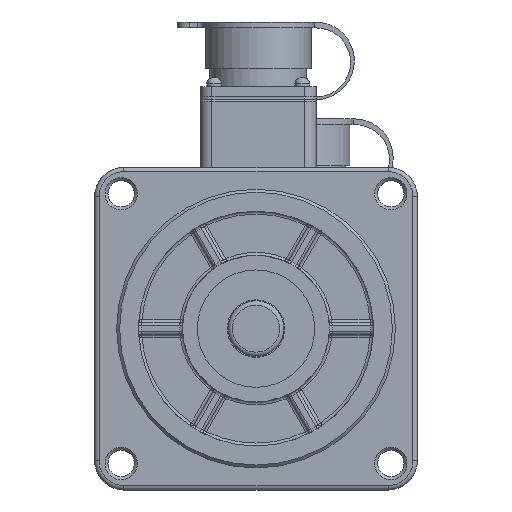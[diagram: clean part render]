
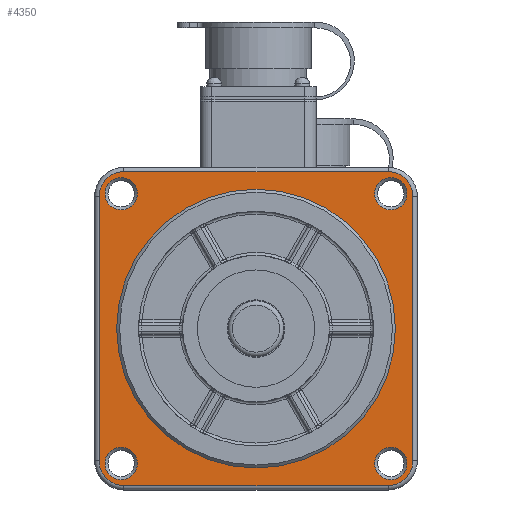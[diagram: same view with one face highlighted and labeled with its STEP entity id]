
A CAD part, front view. The second image highlights one B-rep face of the part: STEP entity #4350.
In plain terms, the highlighted planar face has unit normal (0, -1, 0).
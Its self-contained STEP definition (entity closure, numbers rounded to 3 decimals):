
#1938=PLANE('',#17159);
#2647=LINE('',#27838,#3484);
#2648=LINE('',#27843,#3485);
#2649=LINE('',#27847,#3486);
#2650=LINE('',#27851,#3487);
#3484=VECTOR('',#21195,1.);
#3485=VECTOR('',#21198,1.);
#3486=VECTOR('',#21201,1.);
#3487=VECTOR('',#21204,1.);
#4350=ADVANCED_FACE('',(#5593,#5594,#5595,#5596,#5597,#5598),#1938,.F.);
#5593=FACE_BOUND('',#6594,.T.);
#5594=FACE_BOUND('',#6595,.T.);
#5595=FACE_BOUND('',#6596,.T.);
#5596=FACE_BOUND('',#6597,.T.);
#5597=FACE_BOUND('',#6598,.T.);
#5598=FACE_BOUND('',#6599,.T.);
#6594=EDGE_LOOP('',(#9774,#9775,#9776,#9777,#9778,#9779,#9780,#9781));
#6595=EDGE_LOOP('',(#9782));
#6596=EDGE_LOOP('',(#9783));
#6597=EDGE_LOOP('',(#9784));
#6598=EDGE_LOOP('',(#9785));
#6599=EDGE_LOOP('',(#9786));
#9774=ORIENTED_EDGE('',*,*,#14079,.T.);
#9775=ORIENTED_EDGE('',*,*,#14080,.T.);
#9776=ORIENTED_EDGE('',*,*,#14081,.T.);
#9777=ORIENTED_EDGE('',*,*,#14082,.T.);
#9778=ORIENTED_EDGE('',*,*,#14083,.T.);
#9779=ORIENTED_EDGE('',*,*,#14084,.T.);
#9780=ORIENTED_EDGE('',*,*,#14085,.T.);
#9781=ORIENTED_EDGE('',*,*,#14086,.T.);
#9782=ORIENTED_EDGE('',*,*,#14062,.T.);
#9783=ORIENTED_EDGE('',*,*,#14087,.F.);
#9784=ORIENTED_EDGE('',*,*,#14088,.T.);
#9785=ORIENTED_EDGE('',*,*,#14089,.T.);
#9786=ORIENTED_EDGE('',*,*,#14090,.T.);
#12274=VERTEX_POINT('',#27774);
#12287=VERTEX_POINT('',#27839);
#12288=VERTEX_POINT('',#27840);
#12289=VERTEX_POINT('',#27842);
#12290=VERTEX_POINT('',#27844);
#12291=VERTEX_POINT('',#27846);
#12292=VERTEX_POINT('',#27848);
#12293=VERTEX_POINT('',#27850);
#12294=VERTEX_POINT('',#27852);
#12295=VERTEX_POINT('',#27855);
#12296=VERTEX_POINT('',#27857);
#12297=VERTEX_POINT('',#27859);
#12298=VERTEX_POINT('',#27861);
#14062=EDGE_CURVE('',#12274,#12274,#15398,.T.);
#14079=EDGE_CURVE('',#12287,#12288,#2647,.T.);
#14080=EDGE_CURVE('',#12288,#12289,#15411,.T.);
#14081=EDGE_CURVE('',#12289,#12290,#2648,.T.);
#14082=EDGE_CURVE('',#12290,#12291,#15412,.T.);
#14083=EDGE_CURVE('',#12291,#12292,#2649,.T.);
#14084=EDGE_CURVE('',#12292,#12293,#15413,.T.);
#14085=EDGE_CURVE('',#12293,#12294,#2650,.T.);
#14086=EDGE_CURVE('',#12294,#12287,#15414,.T.);
#14087=EDGE_CURVE('',#12295,#12295,#15415,.T.);
#14088=EDGE_CURVE('',#12296,#12296,#15416,.T.);
#14089=EDGE_CURVE('',#12297,#12297,#15417,.T.);
#14090=EDGE_CURVE('',#12298,#12298,#15418,.T.);
#15398=CIRCLE('',#17133,5.5);
#15411=CIRCLE('',#17151,8.5);
#15412=CIRCLE('',#17152,8.5);
#15413=CIRCLE('',#17153,8.5);
#15414=CIRCLE('',#17154,8.5);
#15415=CIRCLE('',#17155,47.5);
#15416=CIRCLE('',#17156,5.5);
#15417=CIRCLE('',#17157,5.5);
#15418=CIRCLE('',#17158,5.5);
#17133=AXIS2_PLACEMENT_3D('',#27773,#21157,#21158);
#17151=AXIS2_PLACEMENT_3D('',#27841,#21196,#21197);
#17152=AXIS2_PLACEMENT_3D('',#27845,#21199,#21200);
#17153=AXIS2_PLACEMENT_3D('',#27849,#21202,#21203);
#17154=AXIS2_PLACEMENT_3D('',#27853,#21205,#21206);
#17155=AXIS2_PLACEMENT_3D('',#27854,#21207,#21208);
#17156=AXIS2_PLACEMENT_3D('',#27856,#21209,#21210);
#17157=AXIS2_PLACEMENT_3D('',#27858,#21211,#21212);
#17158=AXIS2_PLACEMENT_3D('',#27860,#21213,#21214);
#17159=AXIS2_PLACEMENT_3D('',#27862,#21215,#21216);
#21157=DIRECTION('',(0.,1.,0.));
#21158=DIRECTION('',(-1.,0.,0.));
#21195=DIRECTION('',(0.,0.,1.));
#21196=DIRECTION('',(0.,-1.,0.));
#21197=DIRECTION('',(0.,0.,1.));
#21198=DIRECTION('',(-1.,0.,0.));
#21199=DIRECTION('',(0.,-1.,0.));
#21200=DIRECTION('',(0.,0.,1.));
#21201=DIRECTION('',(0.,0.,-1.));
#21202=DIRECTION('',(0.,-1.,0.));
#21203=DIRECTION('',(0.,0.,1.));
#21204=DIRECTION('',(1.,0.,0.));
#21205=DIRECTION('',(0.,-1.,0.));
#21206=DIRECTION('',(0.,0.,1.));
#21207=DIRECTION('',(0.,-1.,0.));
#21208=DIRECTION('',(-1.,0.,0.));
#21209=DIRECTION('',(0.,1.,0.));
#21210=DIRECTION('',(-1.,0.,0.));
#21211=DIRECTION('',(0.,1.,0.));
#21212=DIRECTION('',(-1.,0.,0.));
#21213=DIRECTION('',(0.,1.,0.));
#21214=DIRECTION('',(-1.,0.,0.));
#21215=DIRECTION('',(0.,1.,0.));
#21216=DIRECTION('',(1.,0.,0.));
#27773=CARTESIAN_POINT('',(101.086,101.922,-137.154));
#27774=CARTESIAN_POINT('',(95.586,101.922,-137.154));
#27838=CARTESIAN_POINT('',(108.624,101.922,-46.192));
#27839=CARTESIAN_POINT('',(108.624,101.922,-136.192));
#27840=CARTESIAN_POINT('',(108.624,101.922,-46.192));
#27841=CARTESIAN_POINT('',(100.124,101.922,-46.192));
#27842=CARTESIAN_POINT('',(100.124,101.922,-37.692));
#27843=CARTESIAN_POINT('',(10.124,101.922,-37.692));
#27844=CARTESIAN_POINT('',(10.124,101.922,-37.692));
#27845=CARTESIAN_POINT('',(10.124,101.922,-46.192));
#27846=CARTESIAN_POINT('',(1.624,101.922,-46.192));
#27847=CARTESIAN_POINT('',(1.624,101.922,-136.192));
#27848=CARTESIAN_POINT('',(1.624,101.922,-136.192));
#27849=CARTESIAN_POINT('',(10.124,101.922,-136.192));
#27850=CARTESIAN_POINT('',(10.124,101.922,-144.692));
#27851=CARTESIAN_POINT('',(100.124,101.922,-144.692));
#27852=CARTESIAN_POINT('',(100.124,101.922,-144.692));
#27853=CARTESIAN_POINT('',(100.124,101.922,-136.192));
#27854=CARTESIAN_POINT('',(55.124,101.922,-91.192));
#27855=CARTESIAN_POINT('',(7.624,101.922,-91.192));
#27856=CARTESIAN_POINT('',(101.086,101.922,-45.23));
#27857=CARTESIAN_POINT('',(95.586,101.922,-45.23));
#27858=CARTESIAN_POINT('',(9.162,101.922,-45.23));
#27859=CARTESIAN_POINT('',(3.662,101.922,-45.23));
#27860=CARTESIAN_POINT('',(9.162,101.922,-137.154));
#27861=CARTESIAN_POINT('',(3.662,101.922,-137.154));
#27862=CARTESIAN_POINT('',(55.124,101.922,-91.192));
